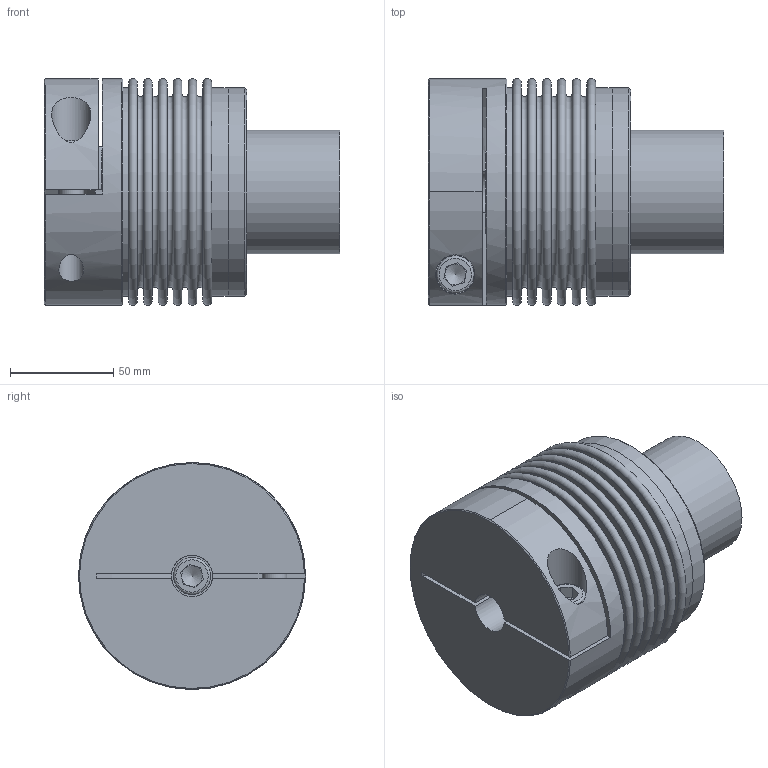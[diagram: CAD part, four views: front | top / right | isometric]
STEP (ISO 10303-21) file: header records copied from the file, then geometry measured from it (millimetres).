
FILE_DESCRIPTION( ( 'Unknown' ), '1' );
FILE_NAME( 'K:/Konstruktion/KB8/HP/KB8-300-98.stp', 'Unknown', ( 'Unknown' ), ( 'Unknown' ), 'PSStep 16.0.42', 'Unknown', ' ' );
FILE_SCHEMA( ( 'AUTOMOTIVE_DESIGN { 1 0 10303 214 1 1 1 1 }' ) );
Length unit declared in the file: millimetre
Products named in the file (6): Assem1; BL300_Standard_0; KN300_Standard_1; Socket Head Cap Screw_DIN_DIN 912 M12 x 35 --- 35N_2; Socket Head Cap Screw_DIN_DIN 912 M12 x 40 --- 40N; Spreiznabe300
Assembly tree (5 placements, depth 2):
  Assem1
    BL300_Standard_0
    KN300_Standard_1
    Socket Head Cap Screw_DIN_DIN 912 M12 x 35 --- 35N_2
    Socket Head Cap Screw_DIN_DIN 912 M12 x 40 --- 40N
    Spreiznabe300
Bounding box: 143 x 110 x 110 mm (x, y, z)
Volume: 621717.8 mm3; surface area: 172853.5 mm2
Topology: 5 solids, 5 shells, 128 faces, 249 edges, 160 vertices
Faces by surface type: plane 72, torus 26, cylinder 23, cone 7
Full cylindrical faces by diameter (mm): 12 x3, 12.5 x1, 13 x1, 18 x2, 19 x1, 20 x2, 60 x1, 99.6 x1, 99.8 x2, 101 x3, 110 x1
Entity records: 4254 total; most frequent: CARTESIAN_POINT 664, DIRECTION 556, ORIENTED_EDGE 370, AXIS2_PLACEMENT_3D 244, EDGE_LOOP 215, EDGE_CURVE 185, FACE_OUTER_BOUND 170, VERTEX_POINT 162
